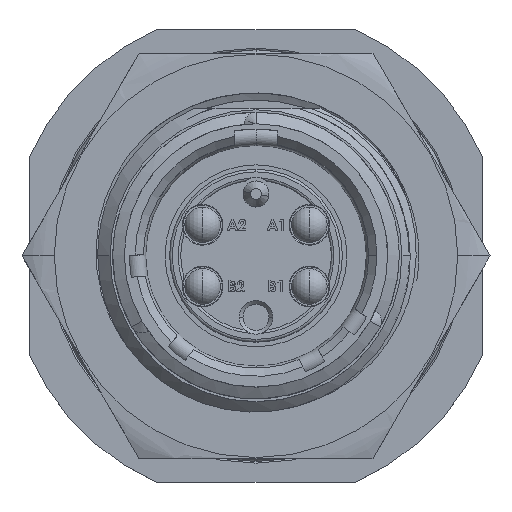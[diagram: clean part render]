
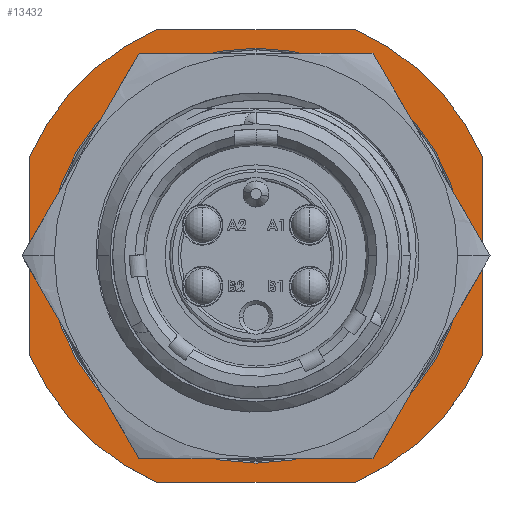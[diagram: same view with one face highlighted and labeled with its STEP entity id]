
A CAD part, top view. The second image highlights one B-rep face of the part: STEP entity #13432.
In plain terms, the highlighted planar face has unit normal (0, 0, 1).
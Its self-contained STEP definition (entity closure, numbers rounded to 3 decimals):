
#227 = CARTESIAN_POINT ( 'NONE',  ( 0., 0.026, -23.241 ) ) ;
#333 = LINE ( 'NONE', #9870, #23227 ) ;
#1070 = VERTEX_POINT ( 'NONE', #19494 ) ;
#1153 = VECTOR ( 'NONE', #8618, 1000. ) ;
#1276 = CARTESIAN_POINT ( 'NONE',  ( -17.45, 7.642, -23.241 ) ) ;
#1388 = DIRECTION ( 'NONE',  ( 0., 0., -1. ) ) ;
#1434 = CIRCLE ( 'NONE', #15677, 15.994 ) ;
#1437 = CARTESIAN_POINT ( 'NONE',  ( -17.45, 7.642, -23.241 ) ) ;
#1549 = EDGE_CURVE ( 'NONE', #6404, #19540, #1434, .T. ) ;
#1718 = DIRECTION ( 'NONE',  ( -1., 0., 0. ) ) ;
#2933 = LINE ( 'NONE', #14342, #13897 ) ;
#2945 = VERTEX_POINT ( 'NONE', #10721 ) ;
#3079 = LINE ( 'NONE', #1276, #1153 ) ;
#3872 = VERTEX_POINT ( 'NONE', #12916 ) ;
#3941 = DIRECTION ( 'NONE',  ( -1., 0., 0. ) ) ;
#4422 = AXIS2_PLACEMENT_3D ( 'NONE', #17868, #6901, #17754 ) ;
#4436 = PLANE ( 'NONE',  #10032 ) ;
#5442 = CARTESIAN_POINT ( 'NONE',  ( 17.45, -7.642, -23.241 ) ) ;
#5477 = CARTESIAN_POINT ( 'NONE',  ( 15.994, 0.026, -23.241 ) ) ;
#5658 = ORIENTED_EDGE ( 'NONE', *, *, #7904, .F. ) ;
#6404 = VERTEX_POINT ( 'NONE', #9913 ) ;
#6901 = DIRECTION ( 'NONE',  ( 0., 0., -1. ) ) ;
#6916 = CARTESIAN_POINT ( 'NONE',  ( 0., 0., -23.241 ) ) ;
#7904 = EDGE_CURVE ( 'NONE', #15686, #12786, #11119, .T. ) ;
#8181 = ORIENTED_EDGE ( 'NONE', *, *, #14978, .T. ) ;
#8612 = CARTESIAN_POINT ( 'NONE',  ( 0., 0.026, -23.241 ) ) ;
#8618 = DIRECTION ( 'NONE',  ( 0., 1., 0. ) ) ;
#8650 = CIRCLE ( 'NONE', #4422, 19.05 ) ;
#8880 = ORIENTED_EDGE ( 'NONE', *, *, #22605, .F. ) ;
#9745 = DIRECTION ( 'NONE',  ( -1., 0., 0. ) ) ;
#9870 = CARTESIAN_POINT ( 'NONE',  ( 17.45, 7.642, -23.241 ) ) ;
#9913 = CARTESIAN_POINT ( 'NONE',  ( -15.994, 0.026, -23.241 ) ) ;
#10004 = EDGE_LOOP ( 'NONE', ( #17607, #8181 ) ) ;
#10032 = AXIS2_PLACEMENT_3D ( 'NONE', #17449, #13950, #20939 ) ;
#10066 = VERTEX_POINT ( 'NONE', #5442 ) ;
#10161 = VERTEX_POINT ( 'NONE', #10977 ) ;
#10201 = DIRECTION ( 'NONE',  ( 0., 0., -1. ) ) ;
#10721 = CARTESIAN_POINT ( 'NONE',  ( 7.642, 17.45, -23.241 ) ) ;
#10977 = CARTESIAN_POINT ( 'NONE',  ( -17.45, -7.642, -23.241 ) ) ;
#11119 = CIRCLE ( 'NONE', #23803, 19.05 ) ;
#11187 = DIRECTION ( 'NONE',  ( 0., 0., -1. ) ) ;
#11555 = CARTESIAN_POINT ( 'NONE',  ( 7.642, -17.45, -23.241 ) ) ;
#11684 = EDGE_CURVE ( 'NONE', #12786, #2945, #2933, .T. ) ;
#12170 = EDGE_CURVE ( 'NONE', #10161, #15686, #3079, .T. ) ;
#12353 = CIRCLE ( 'NONE', #17741, 15.994 ) ;
#12521 = AXIS2_PLACEMENT_3D ( 'NONE', #21713, #14246, #1718 ) ;
#12638 = AXIS2_PLACEMENT_3D ( 'NONE', #6916, #10201, #19577 ) ;
#12658 = ORIENTED_EDGE ( 'NONE', *, *, #11684, .F. ) ;
#12786 = VERTEX_POINT ( 'NONE', #15985 ) ;
#12916 = CARTESIAN_POINT ( 'NONE',  ( 7.642, -17.45, -23.241 ) ) ;
#12985 = VERTEX_POINT ( 'NONE', #20029 ) ;
#13212 = CARTESIAN_POINT ( 'NONE',  ( 0., 0., -23.241 ) ) ;
#13432 = ADVANCED_FACE ( 'NONE', ( #19136, #13581 ), #4436, .F. ) ;
#13581 = FACE_OUTER_BOUND ( 'NONE', #22921, .T. ) ;
#13897 = VECTOR ( 'NONE', #21593, 1000. ) ;
#13950 = DIRECTION ( 'NONE',  ( 0., 0., -1. ) ) ;
#14246 = DIRECTION ( 'NONE',  ( 0., 0., -1. ) ) ;
#14342 = CARTESIAN_POINT ( 'NONE',  ( 7.642, 17.45, -23.241 ) ) ;
#14435 = DIRECTION ( 'NONE',  ( -1., 0., 0. ) ) ;
#14978 = EDGE_CURVE ( 'NONE', #19540, #6404, #12353, .T. ) ;
#15026 = DIRECTION ( 'NONE',  ( 0., -1., 0. ) ) ;
#15677 = AXIS2_PLACEMENT_3D ( 'NONE', #8612, #1388, #19812 ) ;
#15686 = VERTEX_POINT ( 'NONE', #1437 ) ;
#15985 = CARTESIAN_POINT ( 'NONE',  ( -7.642, 17.45, -23.241 ) ) ;
#16826 = EDGE_CURVE ( 'NONE', #2945, #12985, #23063, .T. ) ;
#17210 = LINE ( 'NONE', #11555, #19392 ) ;
#17449 = CARTESIAN_POINT ( 'NONE',  ( 0., 0., -23.241 ) ) ;
#17607 = ORIENTED_EDGE ( 'NONE', *, *, #1549, .T. ) ;
#17741 = AXIS2_PLACEMENT_3D ( 'NONE', #227, #18527, #14435 ) ;
#17754 = DIRECTION ( 'NONE',  ( -1., 0., 0. ) ) ;
#17868 = CARTESIAN_POINT ( 'NONE',  ( 0., 0., -23.241 ) ) ;
#18527 = DIRECTION ( 'NONE',  ( 0., 0., -1. ) ) ;
#18591 = EDGE_CURVE ( 'NONE', #1070, #10161, #8650, .T. ) ;
#19136 = FACE_BOUND ( 'NONE', #10004, .T. ) ;
#19278 = ORIENTED_EDGE ( 'NONE', *, *, #21572, .F. ) ;
#19392 = VECTOR ( 'NONE', #9745, 1000. ) ;
#19494 = CARTESIAN_POINT ( 'NONE',  ( -7.642, -17.45, -23.241 ) ) ;
#19540 = VERTEX_POINT ( 'NONE', #5477 ) ;
#19577 = DIRECTION ( 'NONE',  ( -1., 0., 0. ) ) ;
#19779 = ORIENTED_EDGE ( 'NONE', *, *, #18591, .F. ) ;
#19812 = DIRECTION ( 'NONE',  ( -1., 0., 0. ) ) ;
#19839 = CIRCLE ( 'NONE', #12521, 19.05 ) ;
#20029 = CARTESIAN_POINT ( 'NONE',  ( 17.45, 7.642, -23.241 ) ) ;
#20355 = EDGE_CURVE ( 'NONE', #10066, #3872, #19839, .T. ) ;
#20939 = DIRECTION ( 'NONE',  ( -1., 0., 0. ) ) ;
#20944 = ORIENTED_EDGE ( 'NONE', *, *, #16826, .F. ) ;
#21572 = EDGE_CURVE ( 'NONE', #12985, #10066, #333, .T. ) ;
#21593 = DIRECTION ( 'NONE',  ( 1., 0., 0. ) ) ;
#21713 = CARTESIAN_POINT ( 'NONE',  ( 0., 0., -23.241 ) ) ;
#22605 = EDGE_CURVE ( 'NONE', #3872, #1070, #17210, .T. ) ;
#22921 = EDGE_LOOP ( 'NONE', ( #12658, #5658, #23250, #19779, #8880, #22997, #19278, #20944 ) ) ;
#22997 = ORIENTED_EDGE ( 'NONE', *, *, #20355, .F. ) ;
#23063 = CIRCLE ( 'NONE', #12638, 19.05 ) ;
#23227 = VECTOR ( 'NONE', #15026, 1000. ) ;
#23250 = ORIENTED_EDGE ( 'NONE', *, *, #12170, .F. ) ;
#23803 = AXIS2_PLACEMENT_3D ( 'NONE', #13212, #11187, #3941 ) ;
